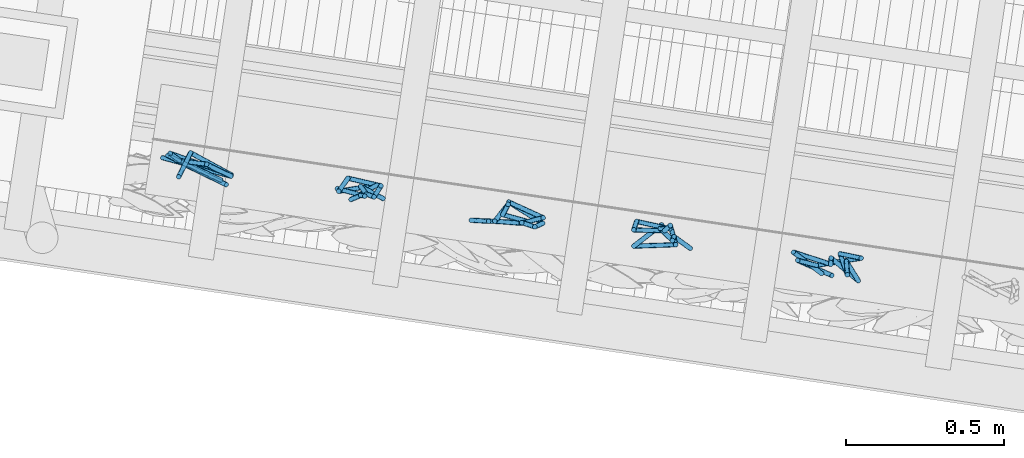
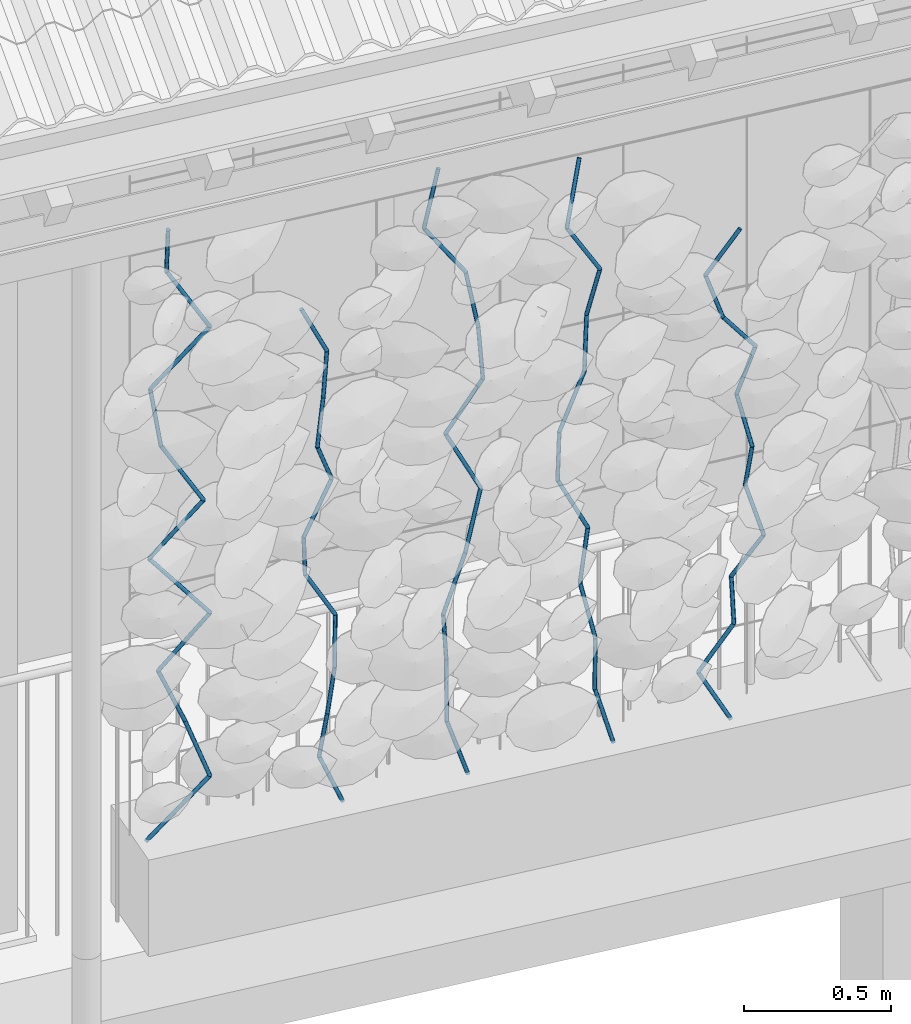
# One storey, part 107 of 131: 55 members, 1 element without a shape of its own.
"""IFC4 building model written with IfcOpenShell, lengths in metres."""

import ifcopenshell
import ifcopenshell.guid

model = None  # the IFC model being written
_history = None  # IfcOwnerHistory: only IFC2X3 demands one
_inside = {}  # id of a spatial element -> (the spatial element, [elements in it])
_under = {}  # id of a project, library or spatial element -> (it, [spatial elements below it])
_declared = {}  # id of a project -> (the project, [libraries it declares])
_typed = {}  # id of a type object -> (the type object, [elements of that type])
_made_of = {}  # id of a material, layer set ... -> (it, [elements and type objects made of it])


def new_model(schema):
    """Start an empty IFC model of exactly this schema.

    Asked for "IFC4X3", IfcOpenShell would pick the latest addendum, in which some entities
    have other attributes; the version numbers below select the first issue.
    IFC2X3 requires an IfcOwnerHistory on every rooted entity: one is made here for all.
    """
    global model, _history
    if schema == "IFC4X3":
        model = ifcopenshell.file(schema_version=(4, 3, 0, 0))
    else:
        model = ifcopenshell.file(schema=schema)
    _inside.clear()
    _under.clear()
    _declared.clear()
    _typed.clear()
    _made_of.clear()
    _history = None
    if model.schema == "IFC2X3":
        org = make("IfcOrganization", Name="unknown")
        user = make(
            "IfcPersonAndOrganization",
            ThePerson=make("IfcPerson", FamilyName="unknown"),
            TheOrganization=org,
        )
        app = make(
            "IfcApplication",
            ApplicationDeveloper=org,
            Version="unknown",
            ApplicationFullName="unknown",
            ApplicationIdentifier="unknown",
        )
        _history = make(
            "IfcOwnerHistory",
            OwningUser=user,
            OwningApplication=app,
            ChangeAction="ADDED",
            CreationDate=0,
        )
    return model


def make(cls, **values):
    """One entity of the class cls with the attributes given. An attribute that is None is left unset."""
    return model.create_entity(
        cls, **{name: value for name, value in values.items() if value is not None}
    )


def rooted(cls, **values):
    """An entity with a GlobalId (a new one), such as an element, a storey or a relation."""
    return make(cls, GlobalId=ifcopenshell.guid.new(), OwnerHistory=_history, **values)


def si_unit(unit_type, name, prefix=None):
    """IfcSIUnit, for example si_unit("LENGTHUNIT", "METRE", prefix="MILLI")."""
    return make("IfcSIUnit", UnitType=unit_type, Prefix=prefix, Name=name)


def assignment(units):
    """IfcUnitAssignment: the units of a project."""
    return None if units is None else make("IfcUnitAssignment", Units=units)


def point(xyz):
    """IfcCartesianPoint."""
    return None if xyz is None else make("IfcCartesianPoint", Coordinates=xyz)


def direction(xyz):
    """IfcDirection."""
    return None if xyz is None else make("IfcDirection", DirectionRatios=xyz)


def frame(location, z_axis=None, x_axis=None):
    """IfcAxis2Placement3D, a coordinate frame: its origin and axes. An axis left out is left unset."""
    return make(
        "IfcAxis2Placement3D",
        Location=point(location),
        Axis=direction(z_axis),
        RefDirection=direction(x_axis),
    )


def origin_with_axes():
    """The frame at (0, 0, 0) with the z axis (0, 0, 1) and the x axis (1, 0, 0) written out."""
    return frame((0.0, 0.0, 0.0), z_axis=(0.0, 0.0, 1.0), x_axis=(1.0, 0.0, 0.0))


def place(relative_to, where):
    """IfcLocalPlacement: puts the frame where relative to a parent placement (None: the world)."""
    return make(
        "IfcLocalPlacement", PlacementRelTo=relative_to, RelativePlacement=where
    )


def context(
    kind, dimensions, precision=None, world=None, true_north=None, identifier=None
):
    """IfcGeometricRepresentationContext, for example the 3D "Model" context."""
    return make(
        "IfcGeometricRepresentationContext",
        ContextIdentifier=identifier,
        ContextType=kind,
        CoordinateSpaceDimension=dimensions,
        Precision=precision,
        WorldCoordinateSystem=world,
        TrueNorth=true_north,
    )


def subcontext(parent, identifier, kind, view, scale=None):
    """IfcGeometricRepresentationSubContext, for example "Body" below "Model"."""
    return make(
        "IfcGeometricRepresentationSubContext",
        ContextIdentifier=identifier,
        ContextType=kind,
        ParentContext=parent,
        TargetScale=scale,
        TargetView=view,
    )


def project(units=None, contexts=None):
    """IfcProject with its units and contexts."""
    return rooted(
        "IfcProject",
        Name="project",
        RepresentationContexts=contexts,
        UnitsInContext=assignment(units),
    )


def spatial(cls, under=None, at=None, **own):
    """A site, building, storey or space (cls), placed at a placement, below another one or the project."""
    s = rooted(cls, ObjectPlacement=at, **own)
    if under is not None:
        _under.setdefault(under.id(), (under, []))[1].append(s)
    return s


def profile(cls, at=None, kind="AREA", **sizes):
    """A parametric profile (cls). Its sizes go by their IFC names, for example OverallWidth=200.0."""
    return make(cls, ProfileType=kind, Position=at, **sizes)


def circle(**sizes):
    """IfcCircleProfileDef."""
    return profile("IfcCircleProfileDef", **sizes)


def extrude(swept, where, along, depth):
    """IfcExtrudedAreaSolid: the profile swept, set in the frame where, extruded along a direction by depth."""
    return make(
        "IfcExtrudedAreaSolid",
        SweptArea=swept,
        Position=where,
        ExtrudedDirection=direction(along),
        Depth=depth,
    )


def shape(context_of_items, identifier, shape_type, items):
    """IfcShapeRepresentation: the items that make up one representation, for example the "Body"."""
    return make(
        "IfcShapeRepresentation",
        ContextOfItems=context_of_items,
        RepresentationIdentifier=identifier,
        RepresentationType=shape_type,
        Items=items,
    )


def material(Name=None, Category=None):
    """IfcMaterial."""
    return make("IfcMaterial", Name=Name, Category=Category)


def material_profile(
    of_material, cross_section, Name=None, Category=None, Priority=None
):
    """IfcMaterialProfile: a cross section and its material."""
    return make(
        "IfcMaterialProfile",
        Name=Name,
        Material=of_material,
        Profile=cross_section,
        Priority=Priority,
        Category=Category,
    )


def profile_set(profiles, Name=None, composite=None):
    """IfcMaterialProfileSet."""
    return make(
        "IfcMaterialProfileSet",
        Name=Name,
        MaterialProfiles=profiles,
        CompositeProfile=composite,
    )


def profile_usage(for_profile_set, cardinal=None, extent=None):
    """IfcMaterialProfileSetUsage: how a profile set lies along its element."""
    return make(
        "IfcMaterialProfileSetUsage",
        ForProfileSet=for_profile_set,
        CardinalPoint=cardinal,
        ReferenceExtent=extent,
    )


def made_of(thing, what):
    """Note that an element or type object is made of a material, layer set ...; save() writes the relation."""
    if what is not None:
        _made_of.setdefault(what.id(), (what, []))[1].append(thing)
    return thing


def type_object(cls, material=None, **own):
    """A type object (cls), such as IfcWallType, which elements share."""
    return made_of(rooted(cls, **own), material)


def element(
    cls,
    number,
    at=None,
    inside=None,
    cuts=None,
    type_object=None,
    material=None,
    context=None,
    identifier="Body",
    shape_type=None,
    held_by="IfcProductDefinitionShape",
    body=None,
    shapes=None,
    **own,
):
    """One element of the class cls, such as IfcWall. Its Tag is "e" and its number.

    at: its placement. inside: the storey or other place that contains it. cuts: it is an
    opening in that element (IfcRelVoidsElement). A single representation is given by context,
    identifier, shape_type and body (its items); several are given by shapes. held_by: the class
    of the entity that holds the representations. save() writes the other relations.
    """
    e = rooted(cls, Tag="e%d" % number, ObjectPlacement=at, **own)
    if body is not None:
        shapes = [shape(context, identifier, shape_type, body)]
    if shapes is not None:
        e.Representation = make(held_by, Representations=shapes)
    if inside is not None:
        _inside.setdefault(inside.id(), (inside, []))[1].append(e)
    if cuts is not None:
        rooted(
            "IfcRelVoidsElement", RelatingBuildingElement=cuts, RelatedOpeningElement=e
        )
    if type_object is not None:
        _typed.setdefault(type_object.id(), (type_object, []))[1].append(e)
    return made_of(e, material)


def aggregate(whole, parts):
    """IfcRelAggregates: a whole, such as a stair, and the parts it consists of."""
    return rooted("IfcRelAggregates", RelatingObject=whole, RelatedObjects=parts)


def save(model, path):
    """Write the relations noted so far, then the file.

    IfcRelAggregates (storeys below a building ...), IfcRelContainedInSpatialStructure (elements
    in a storey), IfcRelDefinesByType, IfcRelAssociatesMaterial and IfcRelDeclares: one each for
    every whole, place, type object, material and project.
    """
    for whole, parts in _under.values():
        aggregate(whole, parts)
    for where, things in _inside.values():
        rooted(
            "IfcRelContainedInSpatialStructure",
            RelatedElements=things,
            RelatingStructure=where,
        )
    for kind, things in _typed.values():
        rooted("IfcRelDefinesByType", RelatedObjects=things, RelatingType=kind)
    for what, things in _made_of.values():
        rooted("IfcRelAssociatesMaterial", RelatedObjects=things, RelatingMaterial=what)
    for by, libraries in _declared.values():
        rooted("IfcRelDeclares", RelatingContext=by, RelatedDefinitions=libraries)
    model.write(path)


model = new_model("IFC4")

# Units and contexts
model_context = context("Model", 3, precision=1e-05, world=origin_with_axes(), true_north=direction((0.0, 1.0)))
body_context = subcontext(model_context, "Body", "Model", "MODEL_VIEW")
ifc_project = project(units=[si_unit("VOLUMEUNIT", "CUBIC_METRE"), si_unit("LENGTHUNIT", "METRE"), si_unit("AREAUNIT", "SQUARE_METRE")], contexts=[model_context])

# Site, building, storey
site_placement = place(None, origin_with_axes())
site = spatial("IfcSite", under=ifc_project, at=site_placement, Name="Lares · Rua das Mercês · artigo 4771")
building_placement = place(site_placement, frame((15.0, 9.7, 15.8), z_axis=(0.0, 0.0, 1.0), x_axis=(0.989015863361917, -0.147809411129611, 0.0)))
building = spatial("IfcBuilding", under=site, at=building_placement, Name="Casa Sobreposta")
storey_placement = place(building_placement, origin_with_axes())
storey = spatial("IfcBuildingStorey", under=building, at=storey_placement, Name="00 · Habitação e estacionamento", Elevation=15.8)

# Assembly, members
assembly_placement = place(storey_placement, origin_with_axes())
assembly = element("IfcElementAssembly", 1, at=assembly_placement, inside=storey, Name="Fachada sul e pátio · estrutura e trepadeiras", ObjectType="LIVING_SHADE_TRELLIS", PredefinedType="USERDEFINED")
ifc_material = material(Name="Ramos de trepadeiras", Category="wood")
ifc_material_profile = material_profile(ifc_material, circle(Radius=0.0075))
ifc_profile_set = profile_set([ifc_material_profile], Name="D0.015")
ifc_profile_usage_1 = profile_usage(ifc_profile_set)
member_type = type_object("IfcMemberType", Name="D0.015 / vine_wood", PredefinedType="NOTDEFINED", material=ifc_profile_set)
member_1_placement = place(assembly_placement, frame((0.487502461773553, -1.66396382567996, 0.35), z_axis=(0.69058492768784, -0.0801863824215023, 0.718792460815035), x_axis=(-0.115338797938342, -0.993326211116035, 0.0)))
member_1 = element("IfcMember", 2, at=member_1_placement, type_object=member_type, material=ifc_profile_usage_1, Name="Trepadeiras · ramo", context=body_context, shape_type="SweptSolid", body=[
    extrude(circle(Radius=0.0075), origin_with_axes(), (0.0, 0.0, 1.0), 0.32293185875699),
])
ifc_profile_usage_2 = profile_usage(ifc_profile_set)
member_2_placement = place(assembly_placement, frame((0.710514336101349, -1.68985856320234, 0.582120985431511), z_axis=(-0.328747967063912, 0.104310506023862, 0.938639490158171), x_axis=(0.30243708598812, 0.953169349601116, 0.0)))
member_2 = element("IfcMember", 3, at=member_2_placement, type_object=member_type, material=ifc_profile_usage_2, Name="Trepadeiras · ramo", context=body_context, shape_type="SweptSolid", body=[
    extrude(circle(Radius=0.0075), origin_with_axes(), (0.0, 0.0, 1.0), 0.247295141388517),
])
ifc_profile_usage_3 = profile_usage(ifc_profile_set)
member_3_placement = place(assembly_placement, frame((0.629216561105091, -1.66406308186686, 0.814241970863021), z_axis=(-0.389191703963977, -0.00603293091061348, 0.921137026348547), x_axis=(-0.0154993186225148, 0.999879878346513, 0.0)))
member_3 = element("IfcMember", 4, at=member_3_placement, type_object=member_type, material=ifc_profile_usage_3, Name="Trepadeiras · ramo", context=body_context, shape_type="SweptSolid", body=[
    extrude(circle(Radius=0.0075), origin_with_axes(), (0.0, 0.0, 1.0), 0.251993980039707),
])
ifc_profile_usage_4 = profile_usage(ifc_profile_set)
member_4_placement = place(assembly_placement, frame((0.531142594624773, -1.66558334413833, 1.04636295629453), z_axis=(0.579293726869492, -0.182032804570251, 0.794533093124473), x_axis=(-0.299780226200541, -0.954008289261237, 0.0)))
member_4 = element("IfcMember", 5, at=member_4_placement, type_object=member_type, material=ifc_profile_usage_4, Name="Trepadeiras · ramo", context=body_context, shape_type="SweptSolid", body=[
    extrude(circle(Radius=0.0075), origin_with_axes(), (0.0, 0.0, 1.0), 0.292147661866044),
])
ifc_profile_usage_5 = profile_usage(ifc_profile_set)
member_5_placement = place(assembly_placement, frame((0.700381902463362, -1.71876380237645, 1.27848394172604), z_axis=(-0.634729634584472, 0.207136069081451, 0.744454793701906), x_axis=(0.310235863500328, 0.950659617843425, 3.09474478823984e-17)))
member_5 = element("IfcMember", 6, at=member_5_placement, type_object=member_type, material=ifc_profile_usage_5, Name="Trepadeiras · ramo", context=body_context, shape_type="SweptSolid", body=[
    extrude(circle(Radius=0.0075), origin_with_axes(), (0.0, 0.0, 1.0), 0.311799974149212),
])
ifc_profile_usage_6 = profile_usage(ifc_profile_set)
member_6_placement = place(assembly_placement, frame((0.502473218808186, -1.65417878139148, 1.51060492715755), z_axis=(0.599844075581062, -0.17685079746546, 0.78032741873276), x_axis=(-0.28279332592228, -0.959180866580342, 0.0)))
member_6 = element("IfcMember", 7, at=member_6_placement, type_object=member_type, material=ifc_profile_usage_6, Name="Trepadeiras · ramo", context=body_context, shape_type="SweptSolid", body=[
    extrude(circle(Radius=0.0075), origin_with_axes(), (0.0, 0.0, 1.0), 0.297466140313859),
])
ifc_profile_usage_7 = profile_usage(ifc_profile_set)
member_7_placement = place(assembly_placement, frame((0.680906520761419, -1.70678590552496, 1.74272591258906), z_axis=(-0.507589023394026, 0.156348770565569, 0.847294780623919), x_axis=(0.294373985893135, 0.95569030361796, 0.0)))
member_7 = element("IfcMember", 8, at=member_7_placement, type_object=member_type, material=ifc_profile_usage_7, Name="Trepadeiras · ramo", context=body_context, shape_type="SweptSolid", body=[
    extrude(circle(Radius=0.0075), origin_with_axes(), (0.0, 0.0, 1.0), 0.27395540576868),
])
ifc_profile_usage_8 = profile_usage(ifc_profile_set)
member_8_placement = place(assembly_placement, frame((0.54184976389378, -1.66395331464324, 1.97484689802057), z_axis=(-0.136484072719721, 0.0718011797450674, 0.988036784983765), x_axis=(0.465581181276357, 0.885005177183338, 0.0)))
member_8 = element("IfcMember", 9, at=member_8_placement, type_object=member_type, material=ifc_profile_usage_8, Name="Trepadeiras · ramo", context=body_context, shape_type="SweptSolid", body=[
    extrude(circle(Radius=0.0075), origin_with_axes(), (0.0, 0.0, 1.0), 0.23493152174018),
])
ifc_profile_usage_9 = profile_usage(ifc_profile_set)
member_9_placement = place(assembly_placement, frame((0.509785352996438, -1.64708495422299, 2.20696788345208), z_axis=(0.65162920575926, -0.125884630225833, 0.74801900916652), x_axis=(-0.189677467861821, -0.981846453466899, 0.0)))
member_9 = element("IfcMember", 10, at=member_9_placement, type_object=member_type, material=ifc_profile_usage_9, Name="Trepadeiras · ramo", context=body_context, shape_type="SweptSolid", body=[
    extrude(circle(Radius=0.0075), origin_with_axes(), (0.0, 0.0, 1.0), 0.310314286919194),
])
ifc_profile_usage_10 = profile_usage(ifc_profile_set)
member_10_placement = place(assembly_placement, frame((0.711995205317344, -1.6861487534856, 2.4390888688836), z_axis=(-0.503862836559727, 0.183056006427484, 0.844163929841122), x_axis=(0.341468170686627, 0.93989333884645, 0.0)))
member_10 = element("IfcMember", 11, at=member_10_placement, type_object=member_type, material=ifc_profile_usage_10, Name="Trepadeiras · ramo", context=body_context, shape_type="SweptSolid", body=[
    extrude(circle(Radius=0.0075), origin_with_axes(), (0.0, 0.0, 1.0), 0.274971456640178),
])
ifc_profile_usage_11 = profile_usage(ifc_profile_set)
member_11_placement = place(assembly_placement, frame((0.573447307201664, -1.6358135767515, 2.67120985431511), z_axis=(-0.104470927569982, -0.32645838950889, 0.939420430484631), x_axis=(-0.952420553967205, 0.304786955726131, 0.0)))
member_11 = element("IfcMember", 12, at=member_11_placement, type_object=member_type, material=ifc_profile_usage_11, Name="Trepadeiras · ramo", context=body_context, shape_type="SweptSolid", body=[
    extrude(circle(Radius=0.0075), origin_with_axes(), (0.0, 0.0, 1.0), 0.247089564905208),
])
ifc_profile_usage_12 = profile_usage(ifc_profile_set)
member_12_placement = place(assembly_placement, frame((1.19577776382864, -1.68878370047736, 0.35), z_axis=(-0.370010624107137, 0.134204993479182, 0.919282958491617), x_axis=(0.340970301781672, 0.940074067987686, 0.0)))
member_12 = element("IfcMember", 13, at=member_12_placement, type_object=member_type, material=ifc_profile_usage_12, Name="Trepadeiras · ramo", context=body_context, shape_type="SweptSolid", body=[
    extrude(circle(Radius=0.0075), origin_with_axes(), (0.0, 0.0, 1.0), 0.204791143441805),
])
ifc_profile_usage_13 = profile_usage(ifc_profile_set)
member_13_placement = place(assembly_placement, frame((1.12000286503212, -1.66129970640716, 0.538261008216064), z_axis=(0.114974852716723, -0.113400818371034, 0.98687437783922), x_axis=(-0.702216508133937, -0.71196346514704, 0.0)))
member_13 = element("IfcMember", 14, at=member_13_placement, type_object=member_type, material=ifc_profile_usage_13, Name="Trepadeiras · ramo", context=body_context, shape_type="SweptSolid", body=[
    extrude(circle(Radius=0.0075), origin_with_axes(), (0.0, 0.0, 1.0), 0.190764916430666),
])
ifc_profile_usage_14 = profile_usage(ifc_profile_set)
member_14_placement = place(assembly_placement, frame((1.14193603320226, -1.68293260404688, 0.726522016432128), z_axis=(0.129485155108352, -0.0261637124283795, 0.991236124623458), x_axis=(-0.198056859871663, -0.98019053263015, 0.0)))
member_14 = element("IfcMember", 15, at=member_14_placement, type_object=member_type, material=ifc_profile_usage_14, Name="Trepadeiras · ramo", context=body_context, shape_type="SweptSolid", body=[
    extrude(circle(Radius=0.0075), origin_with_axes(), (0.0, 0.0, 1.0), 0.189925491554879),
])
ifc_profile_usage_15 = profile_usage(ifc_profile_set)
member_15_placement = place(assembly_placement, frame((1.16652856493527, -1.68790175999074, 0.914783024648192), z_axis=(0.0860637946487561, 0.196311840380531, 0.976757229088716), x_axis=(0.915853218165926, -0.401513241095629, 0.0)))
member_15 = element("IfcMember", 16, at=member_15_placement, type_object=member_type, material=ifc_profile_usage_15, Name="Trepadeiras · ramo", context=body_context, shape_type="SweptSolid", body=[
    extrude(circle(Radius=0.0075), origin_with_axes(), (0.0, 0.0, 1.0), 0.192740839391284),
])
ifc_profile_usage_16 = profile_usage(ifc_profile_set)
member_16_placement = place(assembly_placement, frame((1.18311657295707, -1.65006445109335, 1.10304403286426), z_axis=(-0.492196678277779, 0.0389354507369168, 0.86961282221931), x_axis=(0.07885911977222, 0.996885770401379, 0.0)))
member_16 = element("IfcMember", 17, at=member_16_placement, type_object=member_type, material=ifc_profile_usage_16, Name="Trepadeiras · ramo", context=body_context, shape_type="SweptSolid", body=[
    extrude(circle(Radius=0.0075), origin_with_axes(), (0.0, 0.0, 1.0), 0.216488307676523),
])
ifc_profile_usage_17 = profile_usage(ifc_profile_set)
member_17_placement = place(assembly_placement, frame((1.07656174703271, -1.64163538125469, 1.29130504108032), z_axis=(-0.115924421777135, -0.23083538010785, 0.966062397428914), x_axis=(-0.893641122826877, 0.448782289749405, 0.0)))
member_17 = element("IfcMember", 18, at=member_17_placement, type_object=member_type, material=ifc_profile_usage_17, Name="Trepadeiras · ramo", context=body_context, shape_type="SweptSolid", body=[
    extrude(circle(Radius=0.0075), origin_with_axes(), (0.0, 0.0, 1.0), 0.194874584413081),
])
ifc_profile_usage_18 = profile_usage(ifc_profile_set)
member_18_placement = place(assembly_placement, frame((1.05397102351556, -1.68661933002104, 1.47956604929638), z_axis=(0.518346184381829, 0.165755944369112, 0.838953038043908), x_axis=(0.304584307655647, -0.952485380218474, 0.0)))
member_18 = element("IfcMember", 19, at=member_18_placement, type_object=member_type, material=ifc_profile_usage_18, Name="Trepadeiras · ramo", context=body_context, shape_type="SweptSolid", body=[
    extrude(circle(Radius=0.0075), origin_with_axes(), (0.0, 0.0, 1.0), 0.224399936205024),
])
ifc_profile_usage_19 = profile_usage(ifc_profile_set)
member_19_placement = place(assembly_placement, frame((1.17028787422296, -1.64942370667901, 1.66782705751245), z_axis=(-0.353351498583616, -0.271395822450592, 0.895258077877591), x_axis=(-0.609128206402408, 0.793071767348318, 0.0)))
member_19 = element("IfcMember", 20, at=member_19_placement, type_object=member_type, material=ifc_profile_usage_19, Name="Trepadeiras · ramo", context=body_context, shape_type="SweptSolid", body=[
    extrude(circle(Radius=0.0075), origin_with_axes(), (0.0, 0.0, 1.0), 0.210286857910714),
])
ifc_profile_usage_20 = profile_usage(ifc_profile_set)
member_20_placement = place(assembly_placement, frame((1.09598269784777, -1.70649468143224, 1.85608806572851), z_axis=(0.148789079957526, 0.088983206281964, 0.984857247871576), x_axis=(0.513264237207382, -0.858230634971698, 0.0)))
member_20 = element("IfcMember", 21, at=member_20_placement, type_object=member_type, material=ifc_profile_usage_20, Name="Trepadeiras · ramo", context=body_context, shape_type="SweptSolid", body=[
    extrude(circle(Radius=0.0075), origin_with_axes(), (0.0, 0.0, 1.0), 0.191155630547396),
])
ifc_profile_usage_21 = profile_usage(ifc_profile_set)
member_21_placement = place(assembly_placement, frame((1.12442456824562, -1.68948504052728, 2.04434907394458), z_axis=(0.0685665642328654, -0.00028264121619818, 0.99764650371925), x_axis=(-0.00412210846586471, -0.999991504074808, 0.0)))
member_21 = element("IfcMember", 22, at=member_21_placement, type_object=member_type, material=ifc_profile_usage_21, Name="Trepadeiras · ramo", context=body_context, shape_type="SweptSolid", body=[
    extrude(circle(Radius=0.0075), origin_with_axes(), (0.0, 0.0, 1.0), 0.188705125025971),
])
ifc_profile_usage_22 = profile_usage(ifc_profile_set)
member_22_placement = place(assembly_placement, frame((1.13736343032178, -1.68953837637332, 2.23261008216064), z_axis=(-0.427784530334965, 0.0507941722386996, 0.902452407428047), x_axis=(0.117909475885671, 0.993024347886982, 0.0)))
member_22 = element("IfcMember", 23, at=member_22_placement, type_object=member_type, material=ifc_profile_usage_22, Name="Trepadeiras · ramo", context=body_context, shape_type="SweptSolid", body=[
    extrude(circle(Radius=0.0075), origin_with_axes(), (0.0, 0.0, 1.0), 0.208610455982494),
])
ifc_profile_usage_23 = profile_usage(ifc_profile_set)
member_23_placement = place(assembly_placement, frame((1.65069620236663, -1.69213332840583, 0.35), z_axis=(-0.302355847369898, 0.0374710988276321, 0.952458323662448), x_axis=(0.122989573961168, 0.992407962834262, 0.0)))
member_23 = element("IfcMember", 24, at=member_23_placement, type_object=member_type, material=ifc_profile_usage_23, Name="Trepadeiras · ramo", context=body_context, shape_type="SweptSolid", body=[
    extrude(circle(Radius=0.0075), origin_with_axes(), (0.0, 0.0, 1.0), 0.243378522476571),
])
ifc_profile_usage_24 = profile_usage(ifc_profile_set)
member_24_placement = place(assembly_placement, frame((1.57710928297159, -1.68301366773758, 0.581807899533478), z_axis=(0.0489488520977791, 0.146411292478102, 0.988012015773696), x_axis=(0.948400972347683, -0.317073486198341, 0.0)))
member_24 = element("IfcMember", 25, at=member_24_placement, type_object=member_type, material=ifc_profile_usage_24, Name="Trepadeiras · ramo", context=body_context, shape_type="SweptSolid", body=[
    extrude(circle(Radius=0.0075), origin_with_axes(), (0.0, 0.0, 1.0), 0.234620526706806),
])
ifc_profile_usage_25 = profile_usage(ifc_profile_set)
member_25_placement = place(assembly_placement, frame((1.58859368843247, -1.64866257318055, 0.813615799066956), z_axis=(-0.139443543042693, -0.242815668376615, 0.959997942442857), x_axis=(-0.867176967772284, 0.498000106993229, 0.0)))
member_25 = element("IfcMember", 26, at=member_25_placement, type_object=member_type, material=ifc_profile_usage_25, Name="Trepadeiras · ramo", context=body_context, shape_type="SweptSolid", body=[
    extrude(circle(Radius=0.0075), origin_with_axes(), (0.0, 0.0, 1.0), 0.2414670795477),
])
ifc_profile_usage_26 = profile_usage(ifc_profile_set)
member_26_placement = place(assembly_placement, frame((1.55492266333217, -1.70729456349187, 1.04542369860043), z_axis=(0.336633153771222, 0.0229710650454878, 0.941355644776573), x_axis=(0.0680793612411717, -0.997679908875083, 0.0)))
member_26 = element("IfcMember", 27, at=member_26_placement, type_object=member_type, material=ifc_profile_usage_26, Name="Trepadeiras · ramo", context=body_context, shape_type="SweptSolid", body=[
    extrude(circle(Radius=0.0075), origin_with_axes(), (0.0, 0.0, 1.0), 0.24624901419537),
])
ifc_profile_usage_27 = profile_usage(ifc_profile_set)
member_27_placement = place(assembly_placement, frame((1.63781824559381, -1.7016379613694, 1.27723159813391), z_axis=(0.274649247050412, 0.113486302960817, 0.954823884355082), x_axis=(0.381887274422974, -0.924208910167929, -1.11474430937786e-17)))
member_27 = element("IfcMember", 28, at=member_27_placement, type_object=member_type, material=ifc_profile_usage_27, Name="Trepadeiras · ramo", context=body_context, shape_type="SweptSolid", body=[
    extrude(circle(Radius=0.0075), origin_with_axes(), (0.0, 0.0, 1.0), 0.242775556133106),
])
ifc_profile_usage_28 = profile_usage(ifc_profile_set)
member_28_placement = place(assembly_placement, frame((1.70449636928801, -1.6740862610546, 1.50903949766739), z_axis=(-0.442828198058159, 0.127544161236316, 0.887488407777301), x_axis=(0.27677050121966, 0.960936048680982, -1.33632518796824e-17)))
member_28 = element("IfcMember", 29, at=member_28_placement, type_object=member_type, material=ifc_profile_usage_28, Name="Trepadeiras · ramo", context=body_context, shape_type="SweptSolid", body=[
    extrude(circle(Radius=0.0075), origin_with_axes(), (0.0, 0.0, 1.0), 0.261195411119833),
])
ifc_profile_usage_29 = profile_usage(ifc_profile_set)
member_29_placement = place(assembly_placement, frame((1.58883167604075, -1.64077231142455, 1.74084739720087), z_axis=(0.441156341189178, -0.192631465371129, 0.876512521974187), x_axis=(-0.400165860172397, -0.916442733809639, 0.0)))
member_29 = element("IfcMember", 30, at=member_29_placement, type_object=member_type, material=ifc_profile_usage_29, Name="Trepadeiras · ramo", context=body_context, shape_type="SweptSolid", body=[
    extrude(circle(Radius=0.0075), origin_with_axes(), (0.0, 0.0, 1.0), 0.264466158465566),
])
ifc_profile_usage_30 = profile_usage(ifc_profile_set)
member_30_placement = place(assembly_placement, frame((1.70550259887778, -1.69171681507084, 1.97265529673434), z_axis=(-0.0976262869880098, -0.062175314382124, 0.993279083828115), x_axis=(-0.537179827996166, 0.843467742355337, 0.0)))
member_30 = element("IfcMember", 31, at=member_30_placement, type_object=member_type, material=ifc_profile_usage_30, Name="Trepadeiras · ramo", context=body_context, shape_type="SweptSolid", body=[
    extrude(circle(Radius=0.0075), origin_with_axes(), (0.0, 0.0, 1.0), 0.233376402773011),
])
ifc_profile_usage_31 = profile_usage(ifc_profile_set)
member_31_placement = place(assembly_placement, frame((1.68271892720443, -1.70622706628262, 2.20446319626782), z_axis=(-0.182010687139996, 0.0299207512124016, 0.982841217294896), x_axis=(0.162212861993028, 0.986755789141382, 0.0)))
member_31 = element("IfcMember", 32, at=member_31_placement, type_object=member_type, material=ifc_profile_usage_31, Name="Trepadeiras · ramo", context=body_context, shape_type="SweptSolid", body=[
    extrude(circle(Radius=0.0075), origin_with_axes(), (0.0, 0.0, 1.0), 0.235854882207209),
])
ifc_profile_usage_32 = profile_usage(ifc_profile_set)
member_32_placement = place(assembly_placement, frame((1.63979081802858, -1.69917011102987, 2.4362710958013), z_axis=(-0.563762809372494, -0.0571675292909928, 0.823955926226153), x_axis=(-0.100886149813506, 0.994897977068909, -1.00896558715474e-17)))
member_32 = element("IfcMember", 33, at=member_32_placement, type_object=member_type, material=ifc_profile_usage_32, Name="Trepadeiras · ramo", context=body_context, shape_type="SweptSolid", body=[
    extrude(circle(Radius=0.0075), origin_with_axes(), (0.0, 0.0, 1.0), 0.281335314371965),
])
ifc_profile_usage_33 = profile_usage(ifc_profile_set)
member_33_placement = place(assembly_placement, frame((1.48118443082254, -1.71525335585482, 2.66807899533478), z_axis=(0.22862328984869, 0.0196119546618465, 0.973317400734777), x_axis=(0.0854689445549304, -0.996340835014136, 0.0)))
member_33 = element("IfcMember", 34, at=member_33_placement, type_object=member_type, material=ifc_profile_usage_33, Name="Trepadeiras · ramo", context=body_context, shape_type="SweptSolid", body=[
    extrude(circle(Radius=0.0075), origin_with_axes(), (0.0, 0.0, 1.0), 0.238162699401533),
])
ifc_profile_usage_34 = profile_usage(ifc_profile_set)
member_34_placement = place(assembly_placement, frame((2.17778990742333, -1.70092541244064, 0.35), z_axis=(-0.246947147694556, 0.127641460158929, 0.960585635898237), x_axis=(0.459167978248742, 0.888349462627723, 0.0)))
member_34 = element("IfcMember", 35, at=member_34_placement, type_object=member_type, material=ifc_profile_usage_34, Name="Trepadeiras · ramo", context=body_context, shape_type="SweptSolid", body=[
    extrude(circle(Radius=0.0075), origin_with_axes(), (0.0, 0.0, 1.0), 0.22794704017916),
])
ifc_profile_usage_35 = profile_usage(ifc_profile_set)
member_35_placement = place(assembly_placement, frame((2.12149903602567, -1.67182991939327, 0.568962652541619), z_axis=(-0.0140771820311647, -0.0591782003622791, 0.998148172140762), x_axis=(-0.972853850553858, 0.231420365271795, 0.0)))
member_35 = element("IfcMember", 36, at=member_35_placement, type_object=member_type, material=ifc_profile_usage_35, Name="Trepadeiras · ramo", context=body_context, shape_type="SweptSolid", body=[
    extrude(circle(Radius=0.0075), origin_with_axes(), (0.0, 0.0, 1.0), 0.219368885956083),
])
ifc_profile_usage_36 = profile_usage(ifc_profile_set)
member_36_placement = place(assembly_placement, frame((2.11841094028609, -1.68481177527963, 0.787925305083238), z_axis=(-0.193001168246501, 0.140922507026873, 0.971025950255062), x_axis=(0.589697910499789, 0.807623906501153, 0.0)))
member_36 = element("IfcMember", 37, at=member_36_placement, type_object=member_type, material=ifc_profile_usage_36, Name="Trepadeiras · ramo", context=body_context, shape_type="SweptSolid", body=[
    extrude(circle(Radius=0.0075), origin_with_axes(), (0.0, 0.0, 1.0), 0.225496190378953),
])
ifc_profile_usage_37 = profile_usage(ifc_profile_set)
member_37_placement = place(assembly_placement, frame((2.07488991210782, -1.65303428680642, 1.00688795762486), z_axis=(0.136031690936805, 0.0168165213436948, 0.990561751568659), x_axis=(0.122688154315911, -0.99244527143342, 0.0)))
member_37 = element("IfcMember", 38, at=member_37_placement, type_object=member_type, material=ifc_profile_usage_37, Name="Trepadeiras · ramo", context=body_context, shape_type="SweptSolid", body=[
    extrude(circle(Radius=0.0075), origin_with_axes(), (0.0, 0.0, 1.0), 0.221048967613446),
])
ifc_profile_usage_38 = profile_usage(ifc_profile_set)
member_38_placement = place(assembly_placement, frame((2.10495957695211, -1.64931701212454, 1.22585061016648), z_axis=(-0.43984831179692, 0.0300602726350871, 0.897568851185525), x_axis=(0.0681833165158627, 0.997672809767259, 0.0)))
member_38 = element("IfcMember", 39, at=member_38_placement, type_object=member_type, material=ifc_profile_usage_38, Name="Trepadeiras · ramo", context=body_context, shape_type="SweptSolid", body=[
    extrude(circle(Radius=0.0075), origin_with_axes(), (0.0, 0.0, 1.0), 0.243950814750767),
])
ifc_profile_usage_39 = profile_usage(ifc_profile_set)
member_39_placement = place(assembly_placement, frame((1.9976582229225, -1.64198378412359, 1.4448132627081), z_axis=(-0.0213600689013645, -0.125262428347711, 0.991893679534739), x_axis=(-0.985770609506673, 0.168096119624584, 0.0)))
member_39 = element("IfcMember", 40, at=member_39_placement, type_object=member_type, material=ifc_profile_usage_39, Name="Trepadeiras · ramo", context=body_context, shape_type="SweptSolid", body=[
    extrude(circle(Radius=0.0075), origin_with_axes(), (0.0, 0.0, 1.0), 0.220752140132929),
])
ifc_profile_usage_40 = profile_usage(ifc_profile_set)
member_40_placement = place(assembly_placement, frame((1.99294294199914, -1.66963573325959, 1.66377591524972), z_axis=(0.401780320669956, 0.0493789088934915, 0.914403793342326), x_axis=(0.121982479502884, -0.992532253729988, 0.0)))
member_40 = element("IfcMember", 41, at=member_40_placement, type_object=member_type, material=ifc_profile_usage_40, Name="Trepadeiras · ramo", context=body_context, shape_type="SweptSolid", body=[
    extrude(circle(Radius=0.0075), origin_with_axes(), (0.0, 0.0, 1.0), 0.239459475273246),
])
ifc_profile_usage_41 = profile_usage(ifc_profile_set)
member_41_placement = place(assembly_placement, frame((2.08915304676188, -1.65781148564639, 1.88273856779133), z_axis=(0.0701700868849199, 0.0863193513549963, 0.993793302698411), x_axis=(0.77595729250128, -0.630785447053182, 0.0)))
member_41 = element("IfcMember", 42, at=member_41_placement, type_object=member_type, material=ifc_profile_usage_41, Name="Trepadeiras · ramo", context=body_context, shape_type="SweptSolid", body=[
    extrude(circle(Radius=0.0075), origin_with_axes(), (0.0, 0.0, 1.0), 0.220330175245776),
])
ifc_profile_usage_42 = profile_usage(ifc_profile_set)
member_42_placement = place(assembly_placement, frame((2.10461363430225, -1.63879272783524, 2.10170122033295), z_axis=(0.114782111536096, -0.252020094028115, 0.960890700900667), x_axis=(-0.910056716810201, -0.414483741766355, 0.0)))
member_42 = element("IfcMember", 43, at=member_42_placement, type_object=member_type, material=ifc_profile_usage_42, Name="Trepadeiras · ramo", context=body_context, shape_type="SweptSolid", body=[
    extrude(circle(Radius=0.0075), origin_with_axes(), (0.0, 0.0, 1.0), 0.227874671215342),
])
ifc_profile_usage_43 = profile_usage(ifc_profile_set)
member_43_placement = place(assembly_placement, frame((2.13076957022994, -1.69622172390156, 2.32066387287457), z_axis=(-0.509242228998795, -0.0945821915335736, 0.855410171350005), x_axis=(-0.182608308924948, 0.98318574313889, -1.14597678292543e-17)))
member_43 = element("IfcMember", 44, at=member_43_placement, type_object=member_type, material=ifc_profile_usage_43, Name="Trepadeiras · ramo", context=body_context, shape_type="SweptSolid", body=[
    extrude(circle(Radius=0.0075), origin_with_axes(), (0.0, 0.0, 1.0), 0.255973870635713),
])
ifc_profile_usage_44 = profile_usage(ifc_profile_set)
member_44_placement = place(assembly_placement, frame((2.00041686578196, -1.72043229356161, 2.53962652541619), z_axis=(0.313740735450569, 0.3266213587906, 0.89156336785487), x_axis=(0.721184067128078, -0.692743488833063, 0.0)))
member_44 = element("IfcMember", 45, at=member_44_placement, type_object=member_type, material=ifc_profile_usage_44, Name="Trepadeiras · ramo", context=body_context, shape_type="SweptSolid", body=[
    extrude(circle(Radius=0.0075), origin_with_axes(), (0.0, 0.0, 1.0), 0.245594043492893),
])
ifc_profile_usage_45 = profile_usage(ifc_profile_set)
member_45_placement = place(assembly_placement, frame((2.59969783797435, -1.71802459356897, 0.35), z_axis=(-0.456897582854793, 0.248231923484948, 0.854181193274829), x_axis=(0.477391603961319, 0.878690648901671, 0.0)))
member_45 = element("IfcMember", 46, at=member_45_placement, type_object=member_type, material=ifc_profile_usage_45, Name="Trepadeiras · ramo", context=body_context, shape_type="SweptSolid", body=[
    extrude(circle(Radius=0.0075), origin_with_axes(), (0.0, 0.0, 1.0), 0.21542535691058),
])
ifc_profile_usage_46 = profile_usage(ifc_profile_set)
member_46_placement = place(assembly_placement, frame((2.50127051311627, -1.66454914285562, 0.534012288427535), z_axis=(0.55135418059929, -0.0926420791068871, 0.829111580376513), x_axis=(-0.165703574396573, -0.986175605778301, 1.02902709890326e-17)))
member_46 = element("IfcMember", 47, at=member_46_placement, type_object=member_type, material=ifc_profile_usage_46, Name="Trepadeiras · ramo", context=body_context, shape_type="SweptSolid", body=[
    extrude(circle(Radius=0.0075), origin_with_axes(), (0.0, 0.0, 1.0), 0.221939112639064),
])
ifc_profile_usage_47 = profile_usage(ifc_profile_set)
member_47_placement = place(assembly_placement, frame((2.62363757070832, -1.68511004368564, 0.71802457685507), z_axis=(-0.00935614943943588, 0.106766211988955, 0.994240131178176), x_axis=(0.996182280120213, 0.0872975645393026, 0.0)))
member_47 = element("IfcMember", 48, at=member_47_placement, type_object=member_type, material=ifc_profile_usage_47, Name="Trepadeiras · ramo", context=body_context, shape_type="SweptSolid", body=[
    extrude(circle(Radius=0.0075), origin_with_axes(), (0.0, 0.0, 1.0), 0.185078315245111),
])
ifc_profile_usage_48 = profile_usage(ifc_profile_set)
member_48_placement = place(assembly_placement, frame((2.62190595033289, -1.66534993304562, 0.902036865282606), z_axis=(0.443819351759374, -0.271276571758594, 0.854068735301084), x_axis=(-0.521525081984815, -0.853235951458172, -2.27864137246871e-17)))
member_48 = element("IfcMember", 49, at=member_48_placement, type_object=member_type, material=ifc_profile_usage_48, Name="Trepadeiras · ramo", context=body_context, shape_type="SweptSolid", body=[
    extrude(circle(Radius=0.0075), origin_with_axes(), (0.0, 0.0, 1.0), 0.215453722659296),
])
ifc_profile_usage_49 = profile_usage(ifc_profile_set)
member_49_placement = place(assembly_placement, frame((2.71752848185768, -1.72379748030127, 1.08604915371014), z_axis=(-0.234019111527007, 0.276985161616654, 0.931941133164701), x_axis=(0.763866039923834, 0.645374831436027, 0.0)))
member_49 = element("IfcMember", 50, at=member_49_placement, type_object=member_type, material=ifc_profile_usage_49, Name="Trepadeiras · ramo", context=body_context, shape_type="SweptSolid", body=[
    extrude(circle(Radius=0.0075), origin_with_axes(), (0.0, 0.0, 1.0), 0.197450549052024),
])
ifc_profile_usage_50 = profile_usage(ifc_profile_set)
member_50_placement = place(assembly_placement, frame((2.671321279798, -1.66910660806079, 1.27006144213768), z_axis=(0.0486760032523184, -0.218400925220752, 0.974644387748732), x_axis=(-0.976052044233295, -0.217537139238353, 0.0)))
member_50 = element("IfcMember", 51, at=member_50_placement, type_object=member_type, material=ifc_profile_usage_50, Name="Trepadeiras · ramo", context=body_context, shape_type="SweptSolid", body=[
    extrude(circle(Radius=0.0075), origin_with_axes(), (0.0, 0.0, 1.0), 0.18879941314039),
])
ifc_profile_usage_51 = profile_usage(ifc_profile_set)
member_51_placement = place(assembly_placement, frame((2.68051128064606, -1.71034057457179, 1.45407373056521), z_axis=(-0.1644514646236, 0.316888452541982, 0.934097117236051), x_axis=(0.887595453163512, 0.460623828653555, 0.0)))
member_51 = element("IfcMember", 52, at=member_51_placement, type_object=member_type, material=ifc_profile_usage_51, Name="Trepadeiras · ramo", context=body_context, shape_type="SweptSolid", body=[
    extrude(circle(Radius=0.0075), origin_with_axes(), (0.0, 0.0, 1.0), 0.19699481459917),
])
ifc_profile_usage_52 = profile_usage(ifc_profile_set)
member_52_placement = place(assembly_placement, frame((2.64811519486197, -1.64791519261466, 1.63808601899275), z_axis=(0.34534465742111, -0.0192792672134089, 0.938277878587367), x_axis=(-0.0557393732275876, -0.998445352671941, 0.0)))
member_52 = element("IfcMember", 53, at=member_52_placement, type_object=member_type, material=ifc_profile_usage_52, Name="Trepadeiras · ramo", context=body_context, shape_type="SweptSolid", body=[
    extrude(circle(Radius=0.0075), origin_with_axes(), (0.0, 0.0, 1.0), 0.1961170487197),
])
ifc_profile_usage_53 = profile_usage(ifc_profile_set)
member_53_placement = place(assembly_placement, frame((2.71584316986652, -1.65169618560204, 1.82209830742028), z_axis=(-0.585863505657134, -0.185742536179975, 0.788836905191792), x_axis=(-0.30221567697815, 0.953239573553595, 0.0)))
member_53 = element("IfcMember", 54, at=member_53_placement, type_object=member_type, material=ifc_profile_usage_53, Name="Trepadeiras · ramo", context=body_context, shape_type="SweptSolid", body=[
    extrude(circle(Radius=0.0075), origin_with_axes(), (0.0, 0.0, 1.0), 0.233270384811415),
])
ifc_profile_usage_54 = profile_usage(ifc_profile_set)
member_54_placement = place(assembly_placement, frame((2.57917856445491, -1.69502441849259, 2.00611059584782), z_axis=(-0.312525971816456, 0.0344683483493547, 0.949283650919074), x_axis=(0.109624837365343, 0.993973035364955, 0.0)))
member_54 = element("IfcMember", 55, at=member_54_placement, type_object=member_type, material=ifc_profile_usage_54, Name="Trepadeiras · ramo", context=body_context, shape_type="SweptSolid", body=[
    extrude(circle(Radius=0.0075), origin_with_axes(), (0.0, 0.0, 1.0), 0.193843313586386),
])
ifc_profile_usage_55 = profile_usage(ifc_profile_set)
member_55_placement = place(assembly_placement, frame((2.51859749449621, -1.6883429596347, 2.19012288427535), z_axis=(0.522156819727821, -0.142597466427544, 0.840843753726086), x_axis=(-0.263445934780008, -0.964674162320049, 0.0)))
member_55 = element("IfcMember", 56, at=member_55_placement, type_object=member_type, material=ifc_profile_usage_55, Name="Trepadeiras · ramo", context=body_context, shape_type="SweptSolid", body=[
    extrude(circle(Radius=0.0075), origin_with_axes(), (0.0, 0.0, 1.0), 0.218842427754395),
])
aggregate(assembly, [member_1, member_2, member_3, member_4, member_5, member_6, member_7, member_8, member_9, member_10, member_11, member_12, member_13, member_14, member_15, member_16, member_17, member_18, member_19, member_20, member_21, member_22, member_23, member_24, member_25, member_26, member_27, member_28, member_29, member_30, member_31, member_32, member_33, member_34, member_35, member_36, member_37, member_38, member_39, member_40, member_41, member_42, member_43, member_44, member_45, member_46, member_47, member_48, member_49, member_50, member_51, member_52, member_53, member_54, member_55])

save(model, "model.ifc")
